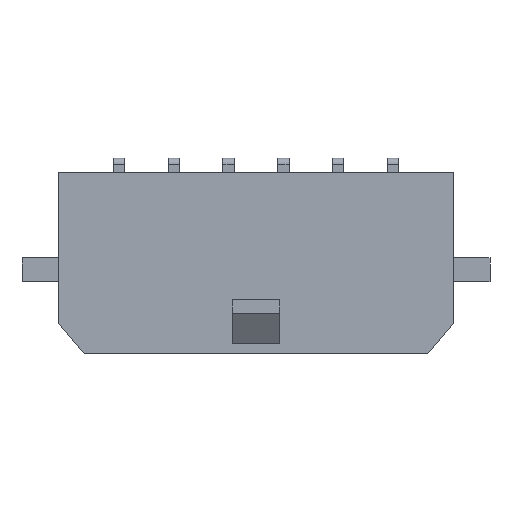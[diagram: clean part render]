
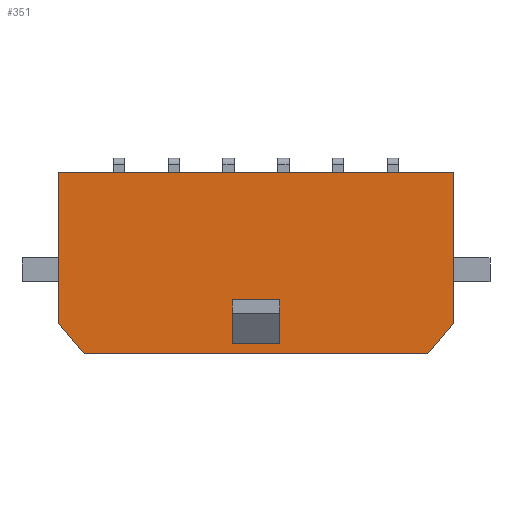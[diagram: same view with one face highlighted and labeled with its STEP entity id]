
A CAD part, top view. The second image highlights one B-rep face of the part: STEP entity #351.
In plain terms, the highlighted planar face has unit normal (0, 0, 1).
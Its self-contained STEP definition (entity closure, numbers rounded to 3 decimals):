
#351=ADVANCED_FACE('',(#753,#754),#569,.T.);
#569=PLANE('',#4110);
#753=FACE_BOUND('',#787,.T.);
#754=FACE_BOUND('',#788,.T.);
#787=EDGE_LOOP('',(#1161,#1162,#1163,#1164,#1165,#1166));
#788=EDGE_LOOP('',(#1167,#1168,#1169,#1170));
#1161=ORIENTED_EDGE('',*,*,#2625,.F.);
#1162=ORIENTED_EDGE('',*,*,#2608,.F.);
#1163=ORIENTED_EDGE('',*,*,#2660,.T.);
#1164=ORIENTED_EDGE('',*,*,#2617,.T.);
#1165=ORIENTED_EDGE('',*,*,#2622,.F.);
#1166=ORIENTED_EDGE('',*,*,#2655,.F.);
#1167=ORIENTED_EDGE('',*,*,#2661,.T.);
#1168=ORIENTED_EDGE('',*,*,#2662,.T.);
#1169=ORIENTED_EDGE('',*,*,#2663,.F.);
#1170=ORIENTED_EDGE('',*,*,#2664,.F.);
#2230=VERTEX_POINT('',#5645);
#2231=VERTEX_POINT('',#5647);
#2239=VERTEX_POINT('',#5664);
#2240=VERTEX_POINT('',#5666);
#2243=VERTEX_POINT('',#5674);
#2244=VERTEX_POINT('',#5678);
#2277=VERTEX_POINT('',#5751);
#2278=VERTEX_POINT('',#5752);
#2279=VERTEX_POINT('',#5754);
#2280=VERTEX_POINT('',#5756);
#2608=EDGE_CURVE('',#2230,#2231,#3179,.T.);
#2617=EDGE_CURVE('',#2240,#2239,#3188,.T.);
#2622=EDGE_CURVE('',#2243,#2239,#3193,.T.);
#2625=EDGE_CURVE('',#2231,#2244,#3196,.T.);
#2655=EDGE_CURVE('',#2244,#2243,#3226,.T.);
#2660=EDGE_CURVE('',#2230,#2240,#3231,.T.);
#2661=EDGE_CURVE('',#2277,#2278,#3232,.T.);
#2662=EDGE_CURVE('',#2278,#2279,#3233,.T.);
#2663=EDGE_CURVE('',#2280,#2279,#3234,.T.);
#2664=EDGE_CURVE('',#2277,#2280,#3235,.T.);
#3179=LINE('',#5646,#3686);
#3188=LINE('',#5665,#3695);
#3193=LINE('',#5675,#3700);
#3196=LINE('',#5681,#3703);
#3226=LINE('',#5741,#3733);
#3231=LINE('',#5749,#3738);
#3232=LINE('',#5750,#3739);
#3233=LINE('',#5753,#3740);
#3234=LINE('',#5755,#3741);
#3235=LINE('',#5757,#3742);
#3686=VECTOR('',#4492,1.);
#3695=VECTOR('',#4503,1.);
#3700=VECTOR('',#4510,1.);
#3703=VECTOR('',#4515,1.);
#3733=VECTOR('',#4547,1.);
#3738=VECTOR('',#4554,1.);
#3739=VECTOR('',#4555,1.);
#3740=VECTOR('',#4556,1.);
#3741=VECTOR('',#4557,1.);
#3742=VECTOR('',#4558,1.);
#4110=AXIS2_PLACEMENT_3D('',#5758,#4559,#4560);
#4492=DIRECTION('',(0.,-1.,0.));
#4503=DIRECTION('',(0.,-1.,0.));
#4510=DIRECTION('',(-0.643,0.766,0.));
#4515=DIRECTION('',(-0.643,-0.766,0.));
#4547=DIRECTION('',(-1.,0.,0.));
#4554=DIRECTION('',(-1.,0.,0.));
#4555=DIRECTION('',(-1.,0.,0.));
#4556=DIRECTION('',(0.,1.,0.));
#4557=DIRECTION('',(-1.,0.,0.));
#4558=DIRECTION('',(0.,1.,0.));
#4559=DIRECTION('',(0.,0.,1.));
#4560=DIRECTION('',(1.,0.,0.));
#5645=CARTESIAN_POINT('',(10.82,9.9,3.86));
#5646=CARTESIAN_POINT('',(10.82,9.9,3.86));
#5647=CARTESIAN_POINT('',(10.82,1.668,3.86));
#5664=CARTESIAN_POINT('',(-10.82,1.668,3.86));
#5665=CARTESIAN_POINT('',(-10.82,9.9,3.86));
#5666=CARTESIAN_POINT('',(-10.82,9.9,3.86));
#5674=CARTESIAN_POINT('',(-9.42,0.,3.86));
#5675=CARTESIAN_POINT('',(-9.42,0.,3.86));
#5678=CARTESIAN_POINT('',(9.42,0.,3.86));
#5681=CARTESIAN_POINT('',(10.82,1.668,3.86));
#5741=CARTESIAN_POINT('',(10.82,0.,3.86));
#5749=CARTESIAN_POINT('',(10.82,9.9,3.86));
#5750=CARTESIAN_POINT('',(1.3,0.54,3.86));
#5751=CARTESIAN_POINT('',(1.3,0.54,3.86));
#5752=CARTESIAN_POINT('',(-1.3,0.54,3.86));
#5753=CARTESIAN_POINT('',(-1.3,0.54,3.86));
#5754=CARTESIAN_POINT('',(-1.3,2.95,3.86));
#5755=CARTESIAN_POINT('',(1.3,2.95,3.86));
#5756=CARTESIAN_POINT('',(1.3,2.95,3.86));
#5757=CARTESIAN_POINT('',(1.3,0.54,3.86));
#5758=CARTESIAN_POINT('',(10.82,9.9,3.86));
